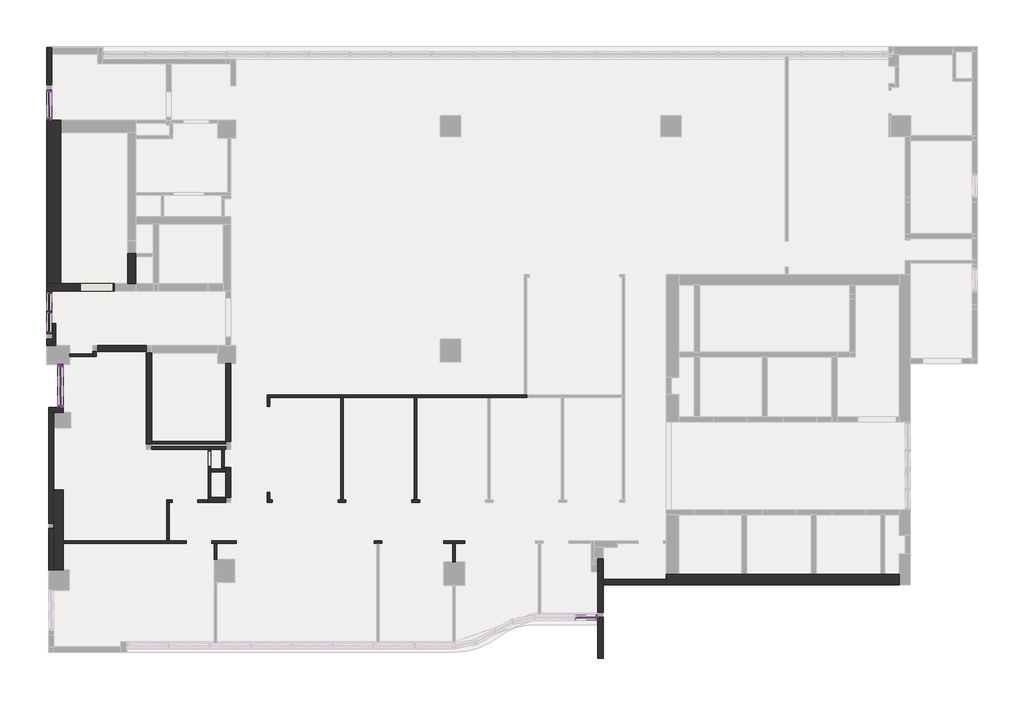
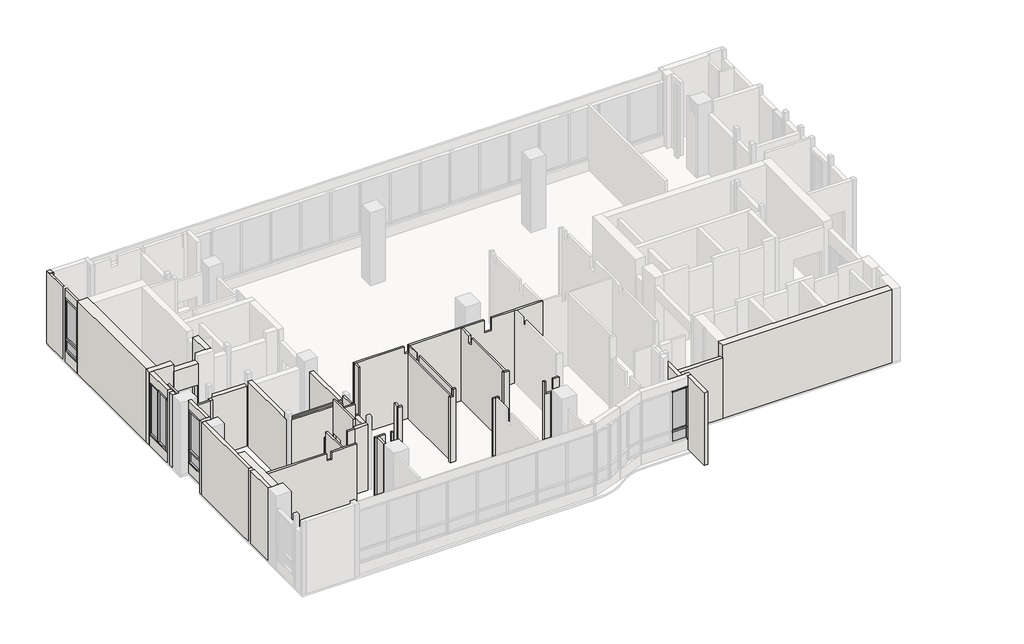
# One storey, part 2 of 5: 48 walls, 27 members, 8 plates.
"""IFC4 building model written with IfcOpenShell, lengths in millimetres."""

from ifc_helpers import new_model, si_unit, frame, origin, place, context, project, spatial, polyline, outline, extrude, faceted_brep, transform, mapped, element, save
from components import member_70_x_200mm_6b650310, member_70_x_200mm_08fd97f2, member_70_x_200mm_85eb935a, member_70_x_200mm_ae6c61ee, member_70_x_200mm_ab4e7ed3, member_70_x_200mm_a98047c5, member_80_x_200mm_c01ebbc2, member_80_x_200mm_af80708f, member_80_x_200mm_e8402a9b, member_80_x_200mm_bcc0553d, member_80_x_200mm_05e543a0, member_80_x_200mm_a242178f, member_80_x_200mm_2f8fc85b, member_80_x_200mm_9974a9cf, plate_a692ac92, plate_ac96ec8a, plate_8b333cfc, plate_b8854779, plate_9922c087, plate_b3ac3ebe, plate_d4818a0d, plate_ae12a68d

model = new_model("IFC4")

# Units and contexts
model_context = context("Model", 3, world=origin())
ifc_project = project(units=[si_unit("LENGTHUNIT", "METRE", prefix="MILLI")], contexts=[model_context])

# Site, building, storey
site = spatial("IfcSite", under=ifc_project)
building = spatial("IfcBuilding", under=site)
storey = spatial("IfcBuildingStorey", under=building, Name="20F(S)", Elevation=-100.0)

# Members
placement = place(None, origin())
member_70_x_200mm_shape = member_70_x_200mm_6b650310(model_context)
element("IfcMember", 1, ObjectType="矩形竖梃 : 70 x 200mm", at=placement, inside=storey, context=model_context, shape_type="MappedRepresentation", body=[
    mapped(member_70_x_200mm_shape, transform((-149.9999991, 6525.0000398, 500.0), x_axis=(0.0, -1.0, 0.0), y_axis=(-1.0, 0.0, 0.0), z_axis=(0.0, 0.0, -1.0))),
])
member_70_x_200mm_2_shape = member_70_x_200mm_08fd97f2(model_context)
element("IfcMember", 2, ObjectType="矩形竖梃 : 70 x 200mm", at=placement, inside=storey, context=model_context, shape_type="MappedRepresentation", body=[
    mapped(member_70_x_200mm_2_shape, transform((-149.9999991, 6525.0000398, 1210.0), x_axis=(0.0, -1.0, 0.0), y_axis=(-1.0, 0.0, 0.0), z_axis=(0.0, 0.0, -1.0))),
])
member_70_x_200mm_3_shape = member_70_x_200mm_85eb935a(model_context)
element("IfcMember", 3, ObjectType="矩形竖梃 : 70 x 200mm", at=placement, inside=storey, context=model_context, shape_type="MappedRepresentation", body=[
    mapped(member_70_x_200mm_3_shape, transform((20680.000002, -1661.00763, 500.0), x_axis=(1.0, 0.0, 0.0), y_axis=(0.0, -1.0, 0.0), z_axis=(0.0, 0.0, -1.0))),
])
element("IfcMember", 4, ObjectType="矩形竖梃 : 70 x 200mm", at=placement, inside=storey, context=model_context, shape_type="MappedRepresentation", body=[
    mapped(member_70_x_200mm_3_shape, transform((-589.9999991, 17639.9923452, 500.0), x_axis=(0.0, -1.0, 0.0), y_axis=(-1.0, 0.0, 0.0), z_axis=(0.0, 0.0, -1.0))),
])
member_70_x_200mm_4_shape = member_70_x_200mm_ae6c61ee(model_context)
element("IfcMember", 5, ObjectType="矩形竖梃 : 70 x 200mm", at=placement, inside=storey, context=model_context, shape_type="MappedRepresentation", body=[
    mapped(member_70_x_200mm_4_shape, transform((20680.000002, -1661.00763, 1210.0), x_axis=(1.0, 0.0, 0.0), y_axis=(0.0, -1.0, 0.0), z_axis=(0.0, 0.0, -1.0))),
])
element("IfcMember", 6, ObjectType="矩形竖梃 : 70 x 200mm", at=placement, inside=storey, context=model_context, shape_type="MappedRepresentation", body=[
    mapped(member_70_x_200mm_4_shape, transform((-589.9999991, 17639.9923452, 1210.0), x_axis=(0.0, -1.0, 0.0), y_axis=(-1.0, 0.0, 0.0), z_axis=(0.0, 0.0, -1.0))),
])
element("IfcMember", 7, ObjectType="矩形竖梃 : 70 x 200mm", at=placement, inside=storey, context=model_context, shape_type="MappedRepresentation", body=[
    mapped(member_70_x_200mm_4_shape, transform((-149.9999991, 8150.0000401, 3500.0), x_axis=(0.0, 1.0, 0.0), y_axis=(-1.0, 0.0, 0.0), z_axis=(0.0, 0.0, 1.0))),
])
element("IfcMember", 8, ObjectType="矩形竖梃 : 70 x 200mm", at=placement, inside=storey, context=model_context, shape_type="MappedRepresentation", body=[
    mapped(member_70_x_200mm_4_shape, transform((-589.9999991, 18799.99237, 3500.0), x_axis=(0.0, 1.0, 0.0), y_axis=(-1.0, 0.0, 0.0), z_axis=(0.0, 0.0, 1.0))),
])
element("IfcMember", 9, ObjectType="矩形竖梃 : 70 x 200mm", at=placement, inside=storey, context=model_context, shape_type="MappedRepresentation", body=[
    mapped(member_70_x_200mm_3_shape, transform((-149.9999991, 8150.0000401, 1210.0), x_axis=(0.0, 1.0, 0.0), y_axis=(-1.0, 0.0, 0.0), z_axis=(0.0, 0.0, 1.0))),
])
element("IfcMember", 10, ObjectType="矩形竖梃 : 70 x 200mm", at=placement, inside=storey, context=model_context, shape_type="MappedRepresentation", body=[
    mapped(member_70_x_200mm_3_shape, transform((-589.9999991, 18799.99237, 1210.0), x_axis=(0.0, 1.0, 0.0), y_axis=(-1.0, 0.0, 0.0), z_axis=(0.0, 0.0, 1.0))),
])
member_70_x_200mm_5_shape = member_70_x_200mm_ab4e7ed3(model_context)
element("IfcMember", 11, ObjectType="矩形竖梃 : 70 x 200mm", at=placement, inside=storey, context=model_context, shape_type="MappedRepresentation", body=[
    mapped(member_70_x_200mm_5_shape, transform((-589.9999991, 10205.0000383, 500.0), x_axis=(0.0, -1.0, 0.0), y_axis=(-1.0, 0.0, 0.0), z_axis=(0.0, 0.0, -1.0))),
])
member_70_x_200mm_6_shape = member_70_x_200mm_a98047c5(model_context)
element("IfcMember", 12, ObjectType="矩形竖梃 : 70 x 200mm", at=placement, inside=storey, context=model_context, shape_type="MappedRepresentation", body=[
    mapped(member_70_x_200mm_6_shape, transform((-589.9999991, 11000.0000384, 3500.0), x_axis=(0.0, 1.0, 0.0), y_axis=(-1.0, 0.0, 0.0), z_axis=(0.0, 0.0, 1.0))),
])
element("IfcMember", 13, ObjectType="矩形竖梃 : 70 x 200mm", at=placement, inside=storey, context=model_context, shape_type="MappedRepresentation", body=[
    mapped(member_70_x_200mm_6_shape, transform((-589.9999991, 9350.0000383, 500.0), x_axis=(0.0, -1.0, 0.0), y_axis=(-1.0, 0.0, 0.0), z_axis=(0.0, 0.0, -1.0))),
])
element("IfcMember", 14, ObjectType="矩形竖梃 : 70 x 200mm", at=placement, inside=storey, context=model_context, shape_type="MappedRepresentation", body=[
    mapped(member_70_x_200mm_3_shape, transform((-149.9999991, 6500.0000361, 500.0), x_axis=(0.0, -1.0, 0.0), y_axis=(-1.0, 0.0, 0.0), z_axis=(0.0, 0.0, -1.0))),
])
element("IfcMember", 15, ObjectType="矩形竖梃 : 70 x 200mm", at=placement, inside=storey, context=model_context, shape_type="MappedRepresentation", body=[
    mapped(member_70_x_200mm_4_shape, transform((-149.9999991, 6500.0000361, 1210.0), x_axis=(0.0, -1.0, 0.0), y_axis=(-1.0, 0.0, 0.0), z_axis=(0.0, 0.0, -1.0))),
])
member_80_x_200mm_shape = member_80_x_200mm_c01ebbc2(model_context)
element("IfcMember", 16, ObjectType="矩形竖梃 : 80 x 200mm", at=placement, inside=storey, context=model_context, shape_type="MappedRepresentation", body=[
    mapped(member_80_x_200mm_shape, transform((-149.9999991, 6560.0000398, 3500.0), x_axis=(0.0, 0.0, 1.0), y_axis=(-1.0, 0.0, 0.0), z_axis=(0.0, -1.0, 0.0))),
])
element("IfcMember", 17, ObjectType="矩形竖梃 : 80 x 200mm", at=placement, inside=storey, context=model_context, shape_type="MappedRepresentation", body=[
    mapped(member_80_x_200mm_shape, transform((-149.9999991, 8080.0000401, 500.0), x_axis=(0.0, 0.0, -1.0), y_axis=(-1.0, 0.0, 0.0), z_axis=(0.0, 1.0, 0.0))),
])
member_80_x_200mm_2_shape = member_80_x_200mm_af80708f(model_context)
element("IfcMember", 18, ObjectType="矩形竖梃 : 80 x 200mm", at=placement, inside=storey, context=model_context, shape_type="MappedRepresentation", body=[
    mapped(member_80_x_200mm_2_shape, transform((-149.9999991, 6560.0000398, 1210.0), x_axis=(0.0, 0.0, 1.0), y_axis=(-1.0, 0.0, 0.0), z_axis=(0.0, -1.0, 0.0))),
])
member_80_x_200mm_3_shape = member_80_x_200mm_e8402a9b(model_context)
element("IfcMember", 19, ObjectType="矩形竖梃 : 80 x 200mm", at=placement, inside=storey, context=model_context, shape_type="MappedRepresentation", body=[
    mapped(member_80_x_200mm_3_shape, transform((20610.000002, -1661.00763, 3500.0), x_axis=(0.0, 0.0, 1.0), y_axis=(0.0, -1.0, 0.0), z_axis=(1.0, 0.0, 0.0))),
])
member_80_x_200mm_4_shape = member_80_x_200mm_bcc0553d(model_context)
element("IfcMember", 20, ObjectType="矩形竖梃 : 80 x 200mm", at=placement, inside=storey, context=model_context, shape_type="MappedRepresentation", body=[
    mapped(member_80_x_200mm_4_shape, transform((20610.000002, -1661.00763, 1210.0), x_axis=(0.0, 0.0, 1.0), y_axis=(0.0, -1.0, 0.0), z_axis=(1.0, 0.0, 0.0))),
])
member_80_x_200mm_5_shape = member_80_x_200mm_05e543a0(model_context)
element("IfcMember", 21, ObjectType="矩形竖梃 : 80 x 200mm", at=placement, inside=storey, context=model_context, shape_type="MappedRepresentation", body=[
    mapped(member_80_x_200mm_5_shape, transform((-589.9999991, 9410.0000381, 3500.0), x_axis=(0.0, 0.0, 1.0), y_axis=(-1.0, 0.0, 0.0), z_axis=(0.0, -1.0, 0.0))),
])
member_80_x_200mm_6_shape = member_80_x_200mm_a242178f(model_context)
element("IfcMember", 22, ObjectType="矩形竖梃 : 80 x 200mm", at=placement, inside=storey, context=model_context, shape_type="MappedRepresentation", body=[
    mapped(member_80_x_200mm_6_shape, transform((-589.9999991, 10930.0000384, 500.0), x_axis=(0.0, 0.0, -1.0), y_axis=(-1.0, 0.0, 0.0), z_axis=(0.0, 1.0, 0.0))),
])
element("IfcMember", 23, ObjectType="矩形竖梃 : 80 x 200mm", at=placement, inside=storey, context=model_context, shape_type="MappedRepresentation", body=[
    mapped(member_80_x_200mm_6_shape, transform((-589.9999991, 10240.0000383, 3500.0), x_axis=(0.0, 0.0, 1.0), y_axis=(-1.0, 0.0, 0.0), z_axis=(0.0, -1.0, 0.0))),
])
element("IfcMember", 24, ObjectType="矩形竖梃 : 80 x 200mm", at=placement, inside=storey, context=model_context, shape_type="MappedRepresentation", body=[
    mapped(member_80_x_200mm_5_shape, transform((-589.9999991, 10170.0000383, 500.0), x_axis=(0.0, 0.0, -1.0), y_axis=(-1.0, 0.0, 0.0), z_axis=(0.0, 1.0, 0.0))),
])
member_80_x_200mm_7_shape = member_80_x_200mm_2f8fc85b(model_context)
element("IfcMember", 25, ObjectType="矩形竖梃 : 80 x 200mm", at=placement, inside=storey, context=model_context, shape_type="MappedRepresentation", body=[
    mapped(member_80_x_200mm_7_shape, transform((-589.9999991, 17709.9923452, 3500.0), x_axis=(0.0, 0.0, 1.0), y_axis=(-1.0, 0.0, 0.0), z_axis=(0.0, -1.0, 0.0))),
])
element("IfcMember", 26, ObjectType="矩形竖梃 : 80 x 200mm", at=placement, inside=storey, context=model_context, shape_type="MappedRepresentation", body=[
    mapped(member_80_x_200mm_7_shape, transform((-589.9999991, 18729.99237, 500.0), x_axis=(0.0, 0.0, -1.0), y_axis=(-1.0, 0.0, 0.0), z_axis=(0.0, 1.0, 0.0))),
])
member_80_x_200mm_8_shape = member_80_x_200mm_9974a9cf(model_context)
element("IfcMember", 27, ObjectType="矩形竖梃 : 80 x 200mm", at=placement, inside=storey, context=model_context, shape_type="MappedRepresentation", body=[
    mapped(member_80_x_200mm_8_shape, transform((-589.9999991, 17709.9923452, 1210.0), x_axis=(0.0, 0.0, 1.0), y_axis=(-1.0, 0.0, 0.0), z_axis=(0.0, -1.0, 0.0))),
])

# Plates
plate_shape = plate_a692ac92(model_context)
element("IfcPlate", 28, ObjectType="系统嵌板 : 玻璃", at=placement, inside=storey, context=model_context, shape_type="MappedRepresentation", body=[
    mapped(plate_shape, transform((-149.9999991, 7320.0000399, 580.0), x_axis=(0.0, -1.0, 0.0), y_axis=(1.0, 0.0, 0.0), z_axis=(0.0, 0.0, 1.0))),
])
plate_2_shape = plate_ac96ec8a(model_context)
element("IfcPlate", 29, ObjectType="系统嵌板 : 玻璃", at=placement, inside=storey, context=model_context, shape_type="MappedRepresentation", body=[
    mapped(plate_2_shape, transform((20218.5302202, -1661.00763, 580.0), x_axis=(1.0, 0.0, 0.0), y_axis=(0.0, 1.0, 0.0), z_axis=(0.0, 0.0, 1.0))),
])
plate_3_shape = plate_8b333cfc(model_context)
element("IfcPlate", 30, ObjectType="系统嵌板 : 玻璃", at=placement, inside=storey, context=model_context, shape_type="MappedRepresentation", body=[
    mapped(plate_3_shape, transform((-149.9999991, 7320.0000399, 1250.0), x_axis=(0.0, -1.0, 0.0), y_axis=(1.0, 0.0, 0.0), z_axis=(0.0, 0.0, 1.0))),
])
plate_4_shape = plate_b8854779(model_context)
element("IfcPlate", 31, ObjectType="系统嵌板 : 玻璃", at=placement, inside=storey, context=model_context, shape_type="MappedRepresentation", body=[
    mapped(plate_4_shape, transform((20218.5302202, -1661.00763, 1250.0), x_axis=(1.0, 0.0, 0.0), y_axis=(0.0, 1.0, 0.0), z_axis=(0.0, 0.0, 1.0))),
])
plate_5_shape = plate_9922c087(model_context)
element("IfcPlate", 32, ObjectType="系统嵌板 : 玻璃", at=placement, inside=storey, context=model_context, shape_type="MappedRepresentation", body=[
    mapped(plate_5_shape, transform((-589.9999991, 10585.0000383, 580.0), x_axis=(0.0, -1.0, 0.0), y_axis=(1.0, 0.0, 0.0), z_axis=(0.0, 0.0, 1.0))),
])
plate_6_shape = plate_b3ac3ebe(model_context)
element("IfcPlate", 33, ObjectType="系统嵌板 : 玻璃", at=placement, inside=storey, context=model_context, shape_type="MappedRepresentation", body=[
    mapped(plate_6_shape, transform((-589.9999991, 9790.0000382, 580.0), x_axis=(0.0, -1.0, 0.0), y_axis=(1.0, 0.0, 0.0), z_axis=(0.0, 0.0, 1.0))),
])
plate_7_shape = plate_d4818a0d(model_context)
element("IfcPlate", 34, ObjectType="系统嵌板 : 玻璃", at=placement, inside=storey, context=model_context, shape_type="MappedRepresentation", body=[
    mapped(plate_7_shape, transform((-589.9999991, 18219.9923576, 580.0), x_axis=(0.0, -1.0, 0.0), y_axis=(1.0, 0.0, 0.0), z_axis=(0.0, 0.0, 1.0))),
])
plate_8_shape = plate_ae12a68d(model_context)
element("IfcPlate", 35, ObjectType="系统嵌板 : 玻璃", at=placement, inside=storey, context=model_context, shape_type="MappedRepresentation", body=[
    mapped(plate_8_shape, transform((-589.9999991, 18219.9923576, 1250.0), x_axis=(0.0, -1.0, 0.0), y_axis=(1.0, 0.0, 0.0), z_axis=(0.0, 0.0, 1.0))),
])

# Walls
element("IfcWall", 36, ObjectType="承重墙-550", at=placement, inside=storey, context=model_context, shape_type="Brep", body=[
    faceted_brep([(-139.9999991, 11300.0000384, -100.0), (-139.9999991, 17139.9923452, -100.0), (-139.9999991, 17639.9923452, -100.0), (-139.9999991, 17639.9923452, 4000.0), (-139.9999991, 17139.9923452, 4000.0), (-139.9999991, 11300.0000384, 4000.0), (-689.9999991, 11300.0000384, -100.0), (-689.9999991, 11300.0000384, 4000.0), (-689.9999991, 17639.9923452, 4000.0), (-689.9999991, 17639.9923452, -100.0), (-489.9999991, 17639.9923452, -100.0), (-600.0, 17639.9923452, 4000.0)], [[[0, 1, 2, 3, 4, 5]], [[6, 7, 8, 9]], [[2, 1, 0, 6, 9, 10]], [[5, 4, 3, 11, 8, 7]], [[3, 2, 10, 9, 8, 11]], [[0, 5, 7, 6]]]),
])
element("IfcWall", 37, ObjectType="承重墙-300", at=placement, inside=storey, context=model_context, shape_type="SweptSolid", body=[
    extrude(outline(polyline([(2460.0000009, 11299.9923707), (2460.0000009, 12449.9994242), (2760.0000009, 12449.9994242), (2760.0000009, 11299.9923707), (2460.0000009, 11299.9923707)])), frame((0.0, 0.0, -100.0), z_axis=(0.0, 0.0, 1.0), x_axis=(1.0, 0.0, 0.0)), (0.0, 0.0, 1.0), 4100.0),
])
element("IfcWall", 38, ObjectType="承重墙-300", at=placement, inside=storey, context=model_context, shape_type="Brep", body=[
    faceted_brep([(610.0000011, 11300.0000384, -100.0), (-139.9999991, 11300.0000384, -100.0), (-689.9999991, 11300.0000384, -100.0), (-689.9999991, 11300.0000384, 4000.0), (-139.9999991, 11300.0000384, 4000.0), (610.0000011, 11300.0000384, 4000.0), (610.0000011, 11000.0000384, -100.0), (610.0000011, 11000.0000384, 4000.0), (-489.9999991, 11000.0000384, 4000.0), (-689.9999991, 11000.0000384, 4000.0), (-689.9999991, 11000.0000384, -100.0), (-489.9999991, 11000.0000384, -100.0)], [[[0, 1, 2, 3, 4, 5]], [[6, 7, 8, 9, 10, 11]], [[2, 1, 0, 6, 11, 10]], [[5, 4, 3, 9, 8, 7]], [[0, 5, 7, 6]], [[3, 2, 10, 9]]]),
])
element("IfcWall", 39, ObjectType="非承重墙-200", at=placement, inside=storey, context=model_context, shape_type="Brep", body=[
    faceted_brep([(-49.9999991, 6500.0000361, -100.0), (-249.9999991, 6500.0000361, -100.0), (-609.9999991, 6500.0000361, -100.0), (-609.9999991, 6500.0000361, 4000.0), (-249.9999991, 6500.0000361, 4000.0), (-89.9999991, 6500.0000361, 4000.0), (-89.9999991, 6500.0000361, 3500.0), (-49.9999991, 6500.0000361, 3500.0), (-609.9999991, 6300.0000361, -100.0), (-409.9999991, 6300.0000361, -100.0), (-49.9999991, 6300.0000361, -100.0), (-49.9999991, 6300.0000361, 3500.0), (-89.9999991, 6300.0000361, 3500.0), (-89.9999991, 6300.0000361, 4000.0), (-409.9999991, 6300.0000361, 4000.0), (-609.9999991, 6300.0000361, 4000.0)], [[[0, 1, 2, 3, 4, 5, 6, 7]], [[8, 9, 10, 11, 12, 13, 14, 15]], [[2, 1, 0, 10, 9, 8]], [[3, 15, 14, 13, 5, 4]], [[10, 0, 7, 11]], [[3, 2, 8, 15]], [[6, 12, 11, 7]], [[12, 6, 5, 13]]]),
])
element("IfcWall", 40, ObjectType="非承重墙-200", at=placement, inside=storey, context=model_context, shape_type="SweptSolid", body=[
    extrude(outline(polyline([(-609.9999991, 2000.0000361), (-609.9999991, 6300.0000361), (-409.9999991, 6300.0000361), (-409.9999991, 2000.0000361), (-609.9999991, 2000.0000361)])), frame((0.0, 0.0, -100.0), z_axis=(0.0, 0.0, 1.0), x_axis=(1.0, 0.0, 0.0)), (0.0, 0.0, 1.0), 4100.0),
])
element("IfcWall", 41, ObjectType="非承重墙-200", at=placement, inside=storey, context=model_context, shape_type="SweptSolid", body=[
    extrude(outline(polyline([(-609.9999991, 200.0000017), (-609.9999991, 1799.9923314), (-409.9999991, 1799.9923314), (-409.9999991, 200.0000017), (-609.9999991, 200.0000017)])), frame((0.0, 0.0, -100.0), z_axis=(0.0, 0.0, 1.0), x_axis=(1.0, 0.0, 0.0)), (0.0, 0.0, 1.0), 4100.0),
])
element("IfcWall", 42, ObjectType="非承重墙-200", at=placement, inside=storey, context=model_context, shape_type="SweptSolid", body=[
    extrude(outline(polyline([(-249.9999991, 6500.0000361), (-249.9999991, 8150.0000401), (-49.9999991, 8150.0000401), (-49.9999991, 6500.0000361), (-249.9999991, 6500.0000361)])), frame((0.0, 0.0, -100.0), z_axis=(0.0, 0.0, 1.0), x_axis=(1.0, 0.0, 0.0)), (0.0, 0.0, 1.0), 600.0),
    extrude(outline(polyline([(-249.9999991, 6500.0000361), (-249.9999991, 8150.0000401), (-89.9999991, 8150.0000401), (-89.9999991, 6500.0000361), (-249.9999991, 6500.0000361)])), frame((0.0, 0.0, 3500.0), z_axis=(0.0, 0.0, 1.0), x_axis=(1.0, 0.0, 0.0)), (0.0, 0.0, 1.0), 500.0),
])
element("IfcWall", 43, ObjectType="承重墙-400", at=placement, inside=storey, context=model_context, shape_type="Brep", body=[
    faceted_brep([(32350.0000031, 19.9923316, -100.0), (31799.9999987, 19.9923316, -100.0), (31649.9999987, 19.9923316, -100.0), (29149.9999987, 19.9923316, -100.0), (28949.9999987, 19.9923316, -100.0), (26449.9999987, 19.9923316, -100.0), (26249.9999987, 19.9923316, -100.0), (23820.0000001, 19.9923316, -100.0), (23320.0000001, 19.9923316, -100.0), (23320.0000001, 19.9923316, 4000.0), (23820.0000001, 19.9923316, 4000.0), (26249.9999987, 19.9923316, 4000.0), (26449.9999987, 19.9923316, 4000.0), (28949.9999987, 19.9923316, 4000.0), (29149.9999987, 19.9923316, 4000.0), (32350.0000031, 19.9923316, 4000.0), (32350.0000031, -380.0076684, -100.0), (32350.0000031, -380.0076684, 4000.0), (23320.0000001, -380.0076684, 4000.0), (23320.0000001, -380.0076684, -100.0), (23320.0000001, -180.0076684, -100.0)], [[[0, 1, 2, 3, 4, 5, 6, 7, 8, 9, 10, 11, 12, 13, 14, 15]], [[16, 17, 18, 19]], [[8, 7, 6, 5, 4, 3, 2, 1, 0, 16, 19, 20]], [[15, 14, 13, 12, 11, 10, 9, 18, 17]], [[0, 15, 17, 16]], [[8, 20, 19, 18, 9]]]),
])
element("IfcWall", 44, ObjectType="承重墙-360", at=placement, inside=storey, context=model_context, shape_type="SweptSolid", body=[
    extrude(outline(polyline([(-409.9995919, 200.0000017), (-409.9995919, 3299.99237), (-49.9995919, 3299.99237), (-49.9995919, 200.0000017), (-409.9995919, 200.0000017)])), frame((0.0, 0.0, -100.0), z_axis=(0.0, 0.0, 1.0), x_axis=(1.0, 0.0, 0.0)), (0.0, 0.0, 1.0), 4100.0),
])
element("IfcWall", 45, ObjectType="非承重墙-200", at=placement, inside=storey, context=model_context, shape_type="SweptSolid", body=[
    extrude(outline(polyline([(-689.9999991, 8900.0000401), (-689.9999991, 9149.9958426), (-489.9999991, 9149.9958426), (-489.9999991, 8900.0000401), (-689.9999991, 8900.0000401)])), frame((0.0, 0.0, -100.0), z_axis=(0.0, 0.0, 1.0), x_axis=(1.0, 0.0, 0.0)), (0.0, 0.0, 1.0), 4100.0),
])
element("IfcWall", 46, ObjectType="非承重墙-200", at=placement, inside=storey, context=model_context, shape_type="SweptSolid", body=[
    extrude(outline(polyline([(-689.9999991, 9350.0000383), (-689.9999991, 11000.0000384), (-489.9999991, 11000.0000384), (-489.9999991, 9350.0000383), (-689.9999991, 9350.0000383)])), frame((0.0, 0.0, -100.0), z_axis=(0.0, 0.0, 1.0), x_axis=(1.0, 0.0, 0.0)), (0.0, 0.0, 1.0), 600.0),
    extrude(outline(polyline([(-689.9999991, 9350.0000383), (-689.9999991, 11000.0000384), (-489.9999991, 11000.0000384), (-489.9999991, 9350.0000383), (-689.9999991, 9350.0000383)])), frame((0.0, 0.0, 3500.0), z_axis=(0.0, 0.0, 1.0), x_axis=(1.0, 0.0, 0.0)), (0.0, 0.0, 1.0), 500.0),
])
element("IfcWall", 47, ObjectType="非承重墙-200", at=placement, inside=storey, context=model_context, shape_type="Brep", body=[
    faceted_brep([(3180.000001, 8600.0000012, -100.0), (3180.000001, 5069.99237, -100.0), (3180.000001, 5069.99237, 3600.0), (3180.000001, 8600.0000012, 3600.0), (3380.000001, 8600.0000012, -100.0), (3380.000001, 8600.0000012, 3600.0), (3380.000001, 5169.99237, 3600.0), (3380.000001, 5069.99237, 3600.0), (3380.000001, 5069.99237, -100.0), (3380.000001, 5169.99237, -100.0)], [[[0, 1, 2, 3]], [[4, 5, 6, 7, 8, 9]], [[1, 0, 4, 9, 8]], [[3, 2, 7, 6, 5]], [[0, 3, 5, 4]], [[2, 1, 8, 7]]]),
])
element("IfcWall", 48, ObjectType="非承重墙-200", at=placement, inside=storey, context=model_context, shape_type="Brep", body=[
    faceted_brep([(6250.0000009, 2999.8899531, -100.0), (5670.0000009, 2999.8899531, -100.0), (5570.0000009, 2999.8899531, -100.0), (5570.0000009, 2999.8899531, 3600.0), (5670.0000009, 2999.8899531, 3600.0), (6250.0000009, 2999.8899531, 3600.0), (6250.0000009, 2799.8899531, -100.0), (6250.0000009, 2799.8899531, 3600.0), (5570.0000009, 2799.8899531, 3600.0), (5570.0000009, 2799.8899531, -100.0), (5570.0000009, 2900.0000384, 3600.0)], [[[0, 1, 2, 3, 4, 5]], [[6, 7, 8, 9]], [[2, 1, 0, 6, 9]], [[3, 2, 9, 8, 10]], [[5, 4, 3, 10, 8, 7]], [[0, 5, 7, 6]]]),
])
element("IfcWall", 49, ObjectType="非承重墙-200", at=placement, inside=storey, context=model_context, shape_type="Brep", body=[
    faceted_brep([(6250.0000005, 4069.9923625, -100.0), (6250.0000005, 4000.0000413, -100.0), (6250.0000005, 2999.99237, -100.0), (6250.0000005, 2999.99237, 3300.0), (6250.0000005, 4069.9923625, 3300.0), (6450.0000005, 4069.9923625, -100.0), (6450.0000005, 4069.9923625, 3300.0), (6450.0000005, 2999.99237, 3300.0), (6450.0000005, 2999.99237, -100.0)], [[[0, 1, 2, 3, 4]], [[5, 6, 7, 8]], [[2, 1, 0, 5, 8]], [[3, 2, 8, 7]], [[4, 3, 7, 6]], [[0, 4, 6, 5]]]),
])
element("IfcWall", 50, ObjectType="非承重墙-200", at=placement, inside=storey, context=model_context, shape_type="SweptSolid", body=[
    extrude(outline(polyline([(6450.0000006, 8200.0110062), (6450.0000006, 5169.99237), (6250.0000006, 5169.99237), (6250.0000006, 8200.0110062), (6450.0000006, 8200.0110062)])), frame((0.0, 0.0, -100.0), z_axis=(0.0, 0.0, 1.0), x_axis=(1.0, 0.0, 0.0)), (0.0, 0.0, 1.0), 3400.0),
])
element("IfcWall", 51, ObjectType="非承重墙-200", at=placement, inside=storey, context=model_context, shape_type="Brep", body=[
    faceted_brep([(-689.999999, 20449.9885166, -100.0), (-689.999999, 18999.99237, -100.0), (-689.999999, 18999.99237, 4000.0), (-689.999999, 20449.9885166, 4000.0), (-489.999999, 18999.99237, -100.0), (-489.999999, 20199.9885166, -100.0), (-489.999999, 20449.9885166, -100.0), (-489.999999, 20449.9885166, 4000.0), (-489.999999, 20199.9885166, 4000.0), (-489.999999, 20189.9923697, 4000.0), (-489.999999, 20189.9923697, 3300.0), (-489.999999, 18999.99237, 3300.0), (-600.0, 18999.99237, 3300.0), (-600.0, 18999.99237, 4000.0), (-600.0, 20189.9923697, 4000.0), (-600.0, 20189.9923697, 3300.0)], [[[0, 1, 2, 3]], [[4, 5, 6, 7, 8, 9, 10, 11]], [[1, 0, 6, 5, 4]], [[2, 1, 4, 11, 12, 13]], [[3, 2, 13, 14, 9, 8, 7]], [[0, 3, 7, 6]], [[10, 15, 12, 11]], [[12, 15, 14, 13]], [[15, 10, 9, 14]]]),
])
element("IfcWall", 52, ObjectType="非承重墙-200", at=placement, inside=storey, context=model_context, shape_type="SweptSolid", body=[
    extrude(outline(polyline([(-689.9999991, 17639.9923452), (-689.9999991, 18799.99237), (-489.9999991, 18799.99237), (-489.9999991, 17639.9923452), (-689.9999991, 17639.9923452)])), frame((0.0, 0.0, -100.0), z_axis=(0.0, 0.0, 1.0), x_axis=(1.0, 0.0, 0.0)), (0.0, 0.0, 1.0), 600.0),
    extrude(outline(polyline([(-689.9999991, 17639.9923452), (-689.9999991, 18799.99237), (-600.0, 18799.99237), (-600.0, 17639.9923452), (-689.9999991, 17639.9923452)])), frame((0.0, 0.0, 3500.0), z_axis=(0.0, 0.0, 1.0), x_axis=(1.0, 0.0, 0.0)), (0.0, 0.0, 1.0), 500.0),
])
element("IfcWall", 53, ObjectType="非承重墙-100", at=placement, inside=storey, context=model_context, shape_type="SweptSolid", body=[
    extrude(outline(polyline([(-339.9999991, 9750.0001013), (-339.9999991, 8900.0000401), (-439.9999991, 8900.0000401), (-439.9999991, 9750.0001013), (-339.9999991, 9750.0001013)])), frame((0.0, 0.0, -100.0), z_axis=(0.0, 0.0, 1.0), x_axis=(1.0, 0.0, 0.0)), (0.0, 0.0, 1.0), 4100.0),
])
element("IfcWall", 54, ObjectType="非承重墙-100", at=placement, inside=storey, context=model_context, shape_type="SweptSolid", body=[
    extrude(outline(polyline([(1100.0000002, 8469.99237), (210.0000009, 8469.99237), (210.0000009, 8569.99237), (1100.0000002, 8569.99237), (1100.0000002, 8469.99237)])), frame((0.0, 0.0, -100.0), z_axis=(0.0, 0.0, 1.0), x_axis=(1.0, 0.0, 0.0)), (0.0, 0.0, 1.0), 3400.0),
])
element("IfcWall", 55, ObjectType="非承重墙-130", at=placement, inside=storey, context=model_context, shape_type="Brep", body=[
    faceted_brep([(1230.0000002, 8469.99237, -100.0), (1230.0000002, 8670.0000012, -100.0), (1230.0000002, 8670.0000012, 3300.0), (1230.0000002, 8469.99237, 3300.0), (1100.0000002, 8469.99237, -100.0), (1100.0000002, 8469.99237, 3300.0), (1100.0000002, 8569.99237, 3300.0), (1100.0000002, 8670.0000012, 3300.0), (1100.0000002, 8670.0000012, -100.0), (1100.0000002, 8569.99237, -100.0)], [[[0, 1, 2, 3]], [[4, 5, 6, 7, 8, 9]], [[1, 0, 4, 9, 8]], [[2, 1, 8, 7]], [[3, 2, 7, 6, 5]], [[0, 3, 5, 4]]]),
])
element("IfcWall", 56, ObjectType="非承重墙-230", at=placement, inside=storey, context=model_context, shape_type="SweptSolid", body=[
    extrude(outline(polyline([(1300.000001, 8900.0076696), (3180.000001, 8900.0076696), (3180.000001, 8670.0076696), (1300.000001, 8670.0076696), (1300.000001, 8900.0076696)])), frame((0.0, 0.0, -100.0), z_axis=(0.0, 0.0, 1.0), x_axis=(1.0, 0.0, 0.0)), (0.0, 0.0, 1.0), 3400.0),
])
element("IfcWall", 57, ObjectType="非承重墙-300", at=placement, inside=storey, context=model_context, shape_type="SweptSolid", body=[
    extrude(outline(polyline([(-100.0, 610.0000011), (-100.0, 1930.0000011), (3600.0, 1930.0000011), (3600.0, 610.0000011), (2400.0, 610.0000011), (2400.0, 1894.7734133), (0.0, 1894.7734133), (0.0, 610.0000011), (-100.0, 610.0000011)])), frame((0.0, 10999.9923707, 0.0), z_axis=(0.0, 1.0, 0.0), x_axis=(0.0, 0.0, 1.0)), (0.0, 0.0, 1.0), 300.0),
])
element("IfcWall", 58, ObjectType="非承重墙-200", at=placement, inside=storey, context=model_context, shape_type="SweptSolid", body=[
    extrude(outline(polyline([(20880.000002, -180.0076684), (23320.0000001, -180.0076684), (23320.0000001, -380.0076684), (20880.000002, -380.0076684), (20880.000002, -180.0076684)])), frame((0.0, 0.0, -100.0), z_axis=(0.0, 0.0, 1.0), x_axis=(1.0, 0.0, 0.0)), (0.0, 0.0, 1.0), 3400.0),
])
element("IfcWall", 59, ObjectType="非承重墙-200", at=placement, inside=storey, context=model_context, shape_type="Brep", body=[
    faceted_brep([(20680.000002, 619.9847014, -100.0), (20680.000002, -1453.0229285, -100.0), (20680.000002, -1453.0229285, 3500.0), (20680.000002, 619.9847014, 3500.0), (20880.000002, 619.9847014, -100.0), (20880.000002, 619.9847014, 3500.0), (20880.000002, -1453.0229285, 3500.0), (20880.000002, -1453.0229285, -100.0), (20880.000002, -380.0076684, -100.0), (20880.000002, -180.0076684, -100.0)], [[[0, 1, 2, 3]], [[4, 5, 6, 7, 8, 9]], [[1, 0, 4, 9, 8, 7]], [[2, 1, 7, 6]], [[3, 2, 6, 5]], [[0, 3, 5, 4]]]),
])
element("IfcWall", 60, ObjectType="非承重墙-100", at=placement, inside=storey, context=model_context, shape_type="Brep", body=[
    faceted_brep([(3380.000001, 4869.99237, -100.0), (5570.0000009, 4869.99237, -100.0), (5670.0000009, 4869.99237, -100.0), (6099.9999937, 4869.99237, -100.0), (6199.9999937, 4869.99237, -100.0), (6250.0000006, 4869.99237, -100.0), (6250.0000006, 4869.99237, 3600.0), (3380.000001, 4869.99237, 3600.0), (3380.000001, 4969.99237, -100.0), (3380.000001, 4969.99237, 3600.0), (6250.0000006, 4969.99237, 3600.0), (6250.0000006, 4969.99237, -100.0)], [[[0, 1, 2, 3, 4, 5, 6, 7]], [[8, 9, 10, 11]], [[5, 4, 3, 2, 1, 0, 8, 11]], [[6, 5, 11, 10]], [[7, 6, 10, 9]], [[0, 7, 9, 8]]]),
])
element("IfcWall", 61, ObjectType="非承重墙-100", at=placement, inside=storey, context=model_context, shape_type="SweptSolid", body=[
    extrude(outline(polyline([(3380.000001, 5169.99237), (6250.0000006, 5169.99237), (6250.0000006, 5069.99237), (3380.000001, 5069.99237), (3380.000001, 5169.99237)])), frame((0.0, 0.0, -100.0), z_axis=(0.0, 0.0, 1.0), x_axis=(1.0, 0.0, 0.0)), (0.0, 0.0, 1.0), 3700.0),
])
element("IfcWall", 62, ObjectType="非承重墙-100", at=placement, inside=storey, context=model_context, shape_type="Brep", body=[
    faceted_brep([(5570.0000009, 4869.99237, -100.0), (5570.0000009, 2999.8899531, -100.0), (5570.0000009, 2999.8899531, 3600.0), (5570.0000009, 3000.1101238, 3600.0), (5570.0000009, 3000.1101238, 4000.0), (5570.0000009, 4869.99237, 4000.0), (5570.0000009, 4800.0000398, 0.0), (5570.0000009, 4800.0000398, 2100.0), (5570.0000009, 4200.0000398, 2100.0), (5570.0000009, 4200.0000398, 0.0), (5670.0000009, 2999.8899531, -100.0), (5670.0000009, 4000.0000413, -100.0), (5670.0000009, 4100.0000413, -100.0), (5670.0000009, 4869.99237, -100.0), (5670.0000009, 4869.99237, 4000.0), (5670.0000009, 4100.0000413, 4000.0), (5670.0000009, 4000.0000413, 4000.0), (5670.0000009, 3000.1101238, 4000.0), (5670.0000009, 3000.1101238, 3600.0), (5670.0000009, 2999.8899531, 3600.0), (5670.0000009, 4800.0000398, 2100.0), (5670.0000009, 4800.0000398, 0.0), (5670.0000009, 4200.0000398, 0.0), (5670.0000009, 4200.0000398, 2100.0)], [[[0, 1, 2, 3, 4, 5], [6, 7, 8, 9]], [[10, 11, 12, 13, 14, 15, 16, 17, 18, 19], [20, 21, 22, 23]], [[1, 0, 13, 12, 11, 10]], [[14, 5, 4, 17, 16, 15]], [[0, 5, 14, 13]], [[6, 21, 20, 7]], [[7, 20, 23, 8]], [[22, 9, 8, 23]], [[21, 6, 9, 22]], [[1, 10, 19, 2]], [[18, 3, 2, 19]], [[3, 18, 17, 4]]]),
])
element("IfcWall", 63, ObjectType="非承重墙-100", at=placement, inside=storey, context=model_context, shape_type="Brep", body=[
    faceted_brep([(6250.0000005, 4100.0000413, -100.0), (5670.0000009, 4100.0000413, -100.0), (5670.0000009, 4100.0000413, 4000.0), (6250.0000005, 4100.0000413, 4000.0), (6250.0000005, 4000.0000413, -100.0), (6250.0000005, 4000.0000413, 4000.0), (5670.0000009, 4000.0000413, 4000.0), (5670.0000009, 4000.0000413, -100.0), (6250.0000005, 4069.9923625, -100.0)], [[[0, 1, 2, 3]], [[4, 5, 6, 7]], [[1, 0, 8, 4, 7]], [[3, 2, 6, 5]], [[0, 3, 5, 4, 8]], [[2, 1, 7, 6]]]),
])
element("IfcWall", 64, ObjectType="非承重墙-100", at=placement, inside=storey, context=model_context, shape_type="Brep", body=[
    faceted_brep([(6099.9999937, 4869.99237, -100.0), (6099.9999937, 4169.9923625, -100.0), (6099.9999937, 4169.9923625, 3300.0), (6099.9999937, 4169.9923625, 4000.0), (6099.9999937, 4869.99237, 4000.0), (6199.9999937, 4869.99237, -100.0), (6199.9999937, 4869.99237, 4000.0), (6199.9999937, 4169.9923625, 4000.0), (6199.9999937, 4169.9923625, -100.0)], [[[0, 1, 2, 3, 4]], [[5, 6, 7, 8]], [[1, 0, 5, 8]], [[4, 3, 7, 6]], [[0, 4, 6, 5]], [[3, 2, 1, 8, 7]]]),
])
element("IfcWall", 65, ObjectType="非承重墙-100", at=placement, inside=storey, context=model_context, shape_type="Brep", body=[
    faceted_brep([(6099.9999937, 4069.9923625, -100.0), (6250.0000005, 4069.9923625, -100.0), (6450.0000005, 4069.9923625, -100.0), (6450.0000005, 4069.9923625, 3300.0), (6250.0000005, 4069.9923625, 3300.0), (6099.9999937, 4069.9923625, 3300.0), (6099.9999937, 4169.9923625, -100.0), (6099.9999937, 4169.9923625, 3300.0), (6450.0000005, 4169.9923625, 3300.0), (6450.0000005, 4169.9923625, -100.0), (6199.9999937, 4169.9923625, -100.0)], [[[0, 1, 2, 3, 4, 5]], [[6, 7, 8, 9, 10]], [[2, 1, 0, 6, 10, 9]], [[5, 4, 3, 8, 7]], [[0, 5, 7, 6]], [[3, 2, 9, 8]]]),
])
element("IfcWall", 66, ObjectType="非承重墙-200", at=placement, inside=storey, context=model_context, shape_type="SweptSolid", body=[
    extrude(outline(polyline([(20680.000002, -3231.5191131), (20680.000002, -1653.0229285), (20880.000002, -1653.0229285), (20880.000002, -3231.5191131), (20680.000002, -3231.5191131)])), frame((0.0, 0.0, -100.0), z_axis=(0.0, 0.0, 1.0), x_axis=(1.0, 0.0, 0.0)), (0.0, 0.0, 1.0), 4100.0),
])
element("IfcWall", 67, ObjectType="轻钢龙骨-100", at=placement, inside=storey, context=model_context, shape_type="Brep", body=[
    faceted_brep([(7865.0000007, 6880.0056251, -100.0), (7965.0000007, 6880.0056251, -100.0), (10715.0000007, 6880.0056251, -100.0), (10815.0000007, 6880.0056251, -100.0), (13565.0000007, 6880.0056251, -100.0), (13665.0000007, 6880.0056251, -100.0), (16415.0000007, 6880.0056251, -100.0), (16515.0000007, 6880.0056251, -100.0), (17920.0000001, 6880.0056251, -100.0), (17920.0000001, 6880.0056251, 4000.0), (16515.0000007, 6880.0056251, 4000.0), (16415.0000007, 6880.0056251, 4000.0), (15200.000833, 6880.0056251, 4000.0), (15200.000833, 6880.0056251, 3300.0), (14800.000833, 6880.0056251, 3300.0), (14800.000833, 6880.0056251, 4000.0), (13665.0000007, 6880.0056251, 4000.0), (13565.0000007, 6880.0056251, 4000.0), (10815.0000007, 6880.0056251, 4000.0), (10775.000833, 6880.0056251, 4000.0), (10775.000833, 6880.0056251, 3600.0), (10715.0000007, 6880.0056251, 3600.0), (10525.000833, 6880.0056251, 3600.0), (10525.000833, 6880.0056251, 4000.0), (7965.0000007, 6880.0056251, 4000.0), (7865.0000007, 6880.0056251, 4000.0), (17920.0000001, 6980.0056251, -100.0), (17820.0000001, 6980.0056251, -100.0), (7865.0000007, 6980.0056251, -100.0), (7865.0000007, 6980.0056251, 4000.0), (10525.000833, 6980.0056251, 4000.0), (10525.000833, 6980.0056251, 3600.0), (10775.000833, 6980.0056251, 3600.0), (10775.000833, 6980.0056251, 4000.0), (14800.000833, 6980.0056251, 4000.0), (14800.000833, 6980.0056251, 3300.0), (15200.000833, 6980.0056251, 3300.0), (15200.000833, 6980.0056251, 4000.0), (17820.0000001, 6980.0056251, 4000.0), (17920.0000001, 6980.0056251, 4000.0)], [[[0, 1, 2, 3, 4, 5, 6, 7, 8, 9, 10, 11, 12, 13, 14, 15, 16, 17, 18, 19, 20, 21, 22, 23, 24, 25]], [[26, 27, 28, 29, 30, 31, 32, 33, 34, 35, 36, 37, 38, 39]], [[8, 7, 6, 5, 4, 3, 2, 1, 0, 28, 27, 26]], [[29, 25, 24, 23, 30]], [[9, 39, 38, 37, 12, 11, 10]], [[15, 34, 33, 19, 18, 17, 16]], [[0, 25, 29, 28]], [[9, 8, 26, 39]], [[14, 35, 34, 15]], [[35, 14, 13, 36]], [[36, 13, 12, 37]], [[22, 31, 30, 23]], [[31, 22, 21, 20, 32]], [[32, 20, 19, 33]]]),
])
element("IfcWall", 68, ObjectType="轻钢龙骨-100", at=placement, inside=storey, context=model_context, shape_type="SweptSolid", body=[
    extrude(outline(polyline([(7865.0000007, 6529.9923716), (7865.0000007, 6880.0056251), (7965.0000007, 6880.0056251), (7965.0000007, 6529.9923716), (7865.0000007, 6529.9923716)])), frame((0.0, 0.0, -100.0), z_axis=(0.0, 0.0, 1.0), x_axis=(1.0, 0.0, 0.0)), (0.0, 0.0, 1.0), 4100.0),
])
element("IfcWall", 69, ObjectType="轻钢龙骨-100", at=placement, inside=storey, context=model_context, shape_type="Brep", body=[
    faceted_brep([(10715.0000007, 6880.0056251, -100.0), (10715.0000007, 2900.0000384, -100.0), (10715.0000007, 2900.0000384, 3600.0), (10715.0000007, 6880.0056251, 3600.0), (10815.0000007, 2900.0000384, -100.0), (10815.0000007, 6880.0056251, -100.0), (10815.0000007, 6880.0056251, 4000.0), (10815.0000007, 6169.9770708, 4000.0), (10815.0000007, 6169.9770708, 3600.0), (10815.0000007, 5919.9770708, 3600.0), (10815.0000007, 5919.9770708, 4000.0), (10815.0000007, 2900.0000384, 4000.0), (10775.000833, 5919.9770708, 4000.0), (10775.000833, 2900.0000384, 4000.0), (10775.000833, 6880.0056251, 4000.0), (10775.000833, 6169.9770708, 4000.0), (10775.000833, 6880.0056251, 3600.0), (10775.000833, 2900.0000384, 3600.0), (10775.000833, 5919.9770708, 3600.0), (10775.000833, 6169.9770708, 3600.0)], [[[0, 1, 2, 3]], [[4, 5, 6, 7, 8, 9, 10, 11]], [[1, 0, 5, 4]], [[11, 10, 12, 13]], [[7, 6, 14, 15]], [[6, 5, 0, 3, 16, 14]], [[1, 4, 11, 13, 17, 2]], [[10, 9, 18, 12]], [[2, 17, 18, 9, 8, 19, 16, 3]], [[8, 7, 15, 19]], [[16, 19, 15, 14]], [[18, 17, 13, 12]]]),
])
element("IfcWall", 70, ObjectType="轻钢龙骨-100", at=placement, inside=storey, context=model_context, shape_type="SweptSolid", body=[
    extrude(outline(polyline([(6880.0056251, -100.0), (2900.0000384, -100.0), (2900.0000384, 4000.0), (5919.9770708, 4000.0), (5919.9770708, 3600.0), (6169.9770708, 3600.0), (6169.9770708, 4000.0), (6880.0056251, 4000.0), (6880.0056251, -100.0)])), frame((13565.0000007, 0.0, 0.0), z_axis=(1.0, 0.0, 0.0), x_axis=(0.0, 1.0, 0.0)), (0.0, 0.0, 1.0), 100.0),
])
element("IfcWall", 71, ObjectType="轻钢龙骨-100", at=placement, inside=storey, context=model_context, shape_type="Brep", body=[
    faceted_brep([(14710.0015265, 1209.9923683, -100.0), (15060.0015272, 1209.9923683, -100.0), (15160.0015272, 1209.9923683, -100.0), (15510.0015279, 1209.9923683, -100.0), (15510.0015279, 1209.9923683, 4000.0), (15200.000833, 1209.9923683, 4000.0), (15200.000833, 1209.9923683, 3300.0), (15160.0015272, 1209.9923683, 3300.0), (15060.0015272, 1209.9923683, 3300.0), (14800.000833, 1209.9923683, 3300.0), (14800.000833, 1209.9923683, 4000.0), (14710.0015265, 1209.9923683, 4000.0), (15510.0015279, 1309.9923683, -100.0), (14710.0015265, 1309.9923683, -100.0), (14710.0015265, 1309.9923683, 4000.0), (14800.000833, 1309.9923683, 4000.0), (14800.000833, 1309.9923683, 3300.0), (15200.000833, 1309.9923683, 3300.0), (15200.000833, 1309.9923683, 4000.0), (15510.0015279, 1309.9923683, 4000.0)], [[[0, 1, 2, 3, 4, 5, 6, 7, 8, 9, 10, 11]], [[12, 13, 14, 15, 16, 17, 18, 19]], [[3, 2, 1, 0, 13, 12]], [[4, 3, 12, 19]], [[4, 19, 18, 5]], [[14, 11, 10, 15]], [[0, 11, 14, 13]], [[9, 16, 15, 10]], [[16, 9, 8, 7, 6, 17]], [[17, 6, 5, 18]]]),
])
element("IfcWall", 72, ObjectType="轻钢龙骨-100", at=placement, inside=storey, context=model_context, shape_type="SweptSolid", body=[
    extrude(outline(polyline([(15060.0015272, 500.0000016), (15060.0015272, 1209.9923683), (15160.0015272, 1209.9923683), (15160.0015272, 500.0000016), (15060.0015272, 500.0000016)])), frame((0.0, 0.0, -100.0), z_axis=(0.0, 0.0, 1.0), x_axis=(1.0, 0.0, 0.0)), (0.0, 0.0, 1.0), 3400.0),
])
element("IfcWall", 73, ObjectType="轻钢龙骨-100", at=placement, inside=storey, context=model_context, shape_type="Brep", body=[
    faceted_brep([(12010.0015272, 1209.9923684, -100.0), (12110.0015272, 1209.9923684, -100.0), (12210.0015272, 1209.9923684, -100.0), (12310.0015272, 1209.9923684, -100.0), (12310.0015272, 1209.9923684, 4000.0), (12210.0015272, 1209.9923684, 4000.0), (12110.0015272, 1209.9923684, 4000.0), (12010.0015272, 1209.9923684, 4000.0), (12010.0015272, 1309.9923684, -100.0), (12010.0015272, 1309.9923684, 4000.0), (12310.0015272, 1309.9923684, 4000.0), (12310.0015272, 1309.9923684, -100.0)], [[[0, 1, 2, 3, 4, 5, 6, 7]], [[8, 9, 10, 11]], [[3, 2, 1, 0, 8, 11]], [[4, 3, 11, 10]], [[7, 6, 5, 4, 10, 9]], [[0, 7, 9, 8]]]),
])
element("IfcWall", 74, ObjectType="轻钢龙骨-100", at=placement, inside=storey, context=model_context, shape_type="SweptSolid", body=[
    extrude(outline(polyline([(5810.0000006, 600.0000384), (5810.0000006, 1209.9923683), (5910.0000006, 1209.9923683), (5910.0000006, 600.0000384), (5810.0000006, 600.0000384)])), frame((0.0, 0.0, -100.0), z_axis=(0.0, 0.0, 1.0), x_axis=(1.0, 0.0, 0.0)), (0.0, 0.0, 1.0), 4100.0),
])
element("IfcWall", 75, ObjectType="轻钢龙骨-100", at=placement, inside=storey, context=model_context, shape_type="Brep", body=[
    faceted_brep([(5710.0000008, 1209.9923683, -100.0), (5810.0000006, 1209.9923683, -100.0), (5910.0000006, 1209.9923683, -100.0), (6660.0000014, 1209.9923683, -100.0), (6660.0000014, 1209.9923683, 4000.0), (6599.9993078, 1209.9923683, 4000.0), (6599.9993078, 1209.9923683, 3300.0), (6249.9993078, 1209.9923683, 3300.0), (6249.9993078, 1209.9923683, 4000.0), (5910.0000006, 1209.9923683, 4000.0), (5810.0000006, 1209.9923683, 4000.0), (5710.0000008, 1209.9923683, 4000.0), (6660.0000014, 1309.9923683, -100.0), (5710.0000008, 1309.9923683, -100.0), (5710.0000008, 1309.9923683, 4000.0), (6249.9993078, 1309.9923683, 4000.0), (6249.9993078, 1309.9923683, 3300.0), (6599.9993078, 1309.9923683, 3300.0), (6599.9993078, 1309.9923683, 4000.0), (6660.0000014, 1309.9923683, 4000.0)], [[[0, 1, 2, 3, 4, 5, 6, 7, 8, 9, 10, 11]], [[12, 13, 14, 15, 16, 17, 18, 19]], [[3, 2, 1, 0, 13, 12]], [[4, 3, 12, 19]], [[4, 19, 18, 5]], [[14, 11, 10, 9, 8, 15]], [[0, 11, 14, 13]], [[17, 6, 5, 18]], [[6, 17, 16, 7]], [[7, 16, 15, 8]]]),
])
element("IfcWall", 76, ObjectType="轻钢龙骨-100", at=placement, inside=storey, context=model_context, shape_type="Brep", body=[
    faceted_brep([(4730.0000007, 1309.9923684, -100.0), (4070.0000009, 1309.9923684, -100.0), (3970.0000009, 1309.9923684, -100.0), (-49.9995919, 1309.9923684, -100.0), (-49.9995919, 1309.9923684, 4000.0), (3130.0000009, 1309.9923684, 4000.0), (3130.0000009, 1309.9923684, 3600.0), (3380.0000009, 1309.9923684, 3600.0), (3380.0000009, 1309.9923684, 4000.0), (3970.0000009, 1309.9923684, 4000.0), (4070.0000009, 1309.9923684, 4000.0), (4730.0000007, 1309.9923684, 4000.0), (-49.9995919, 1209.9923684, -100.0), (4730.0000007, 1209.9923684, -100.0), (4730.0000007, 1209.9923684, 4000.0), (3380.0000009, 1209.9923684, 4000.0), (3380.0000009, 1209.9923684, 3600.0), (3130.0000009, 1209.9923684, 3600.0), (3130.0000009, 1209.9923684, 4000.0), (-49.9995919, 1209.9923684, 4000.0)], [[[0, 1, 2, 3, 4, 5, 6, 7, 8, 9, 10, 11]], [[12, 13, 14, 15, 16, 17, 18, 19]], [[3, 2, 1, 0, 13, 12]], [[4, 3, 12, 19]], [[4, 19, 18, 5]], [[14, 11, 10, 9, 8, 15]], [[0, 11, 14, 13]], [[17, 6, 5, 18]], [[6, 17, 16, 7]], [[7, 16, 15, 8]]]),
])
element("IfcWall", 77, ObjectType="轻钢龙骨-100", at=placement, inside=storey, context=model_context, shape_type="SweptSolid", body=[
    extrude(outline(polyline([(2800.0000384, -100.0), (1309.9923684, -100.0), (1309.9923684, 4000.0), (2750.1101238, 4000.0), (2750.1101238, 3600.0), (2800.0000384, 3600.0), (2800.0000384, -100.0)])), frame((3970.0000009, 0.0, 0.0), z_axis=(1.0, 0.0, 0.0), x_axis=(0.0, 1.0, 0.0)), (0.0, 0.0, 1.0), 100.0),
])
element("IfcWall", 78, ObjectType="轻钢龙骨-100", at=placement, inside=storey, context=model_context, shape_type="Brep", body=[
    faceted_brep([(3970.0000009, 2800.0000384, -100.0), (4070.0000009, 2800.0000384, -100.0), (4190.0000009, 2800.0000384, -100.0), (4190.0000009, 2800.0000384, 3600.0), (3970.0000009, 2800.0000384, 3600.0), (4190.0000009, 2900.0000384, -100.0), (3970.0000009, 2900.0000384, -100.0), (3970.0000009, 2900.0000384, 3600.0), (4190.0000009, 2900.0000384, 3600.0)], [[[0, 1, 2, 3, 4]], [[5, 6, 7, 8]], [[2, 1, 0, 6, 5]], [[2, 5, 8, 3]], [[6, 0, 4, 7]], [[4, 3, 8, 7]]]),
])
element("IfcWall", 79, ObjectType="轻钢龙骨-100", at=placement, inside=storey, context=model_context, shape_type="SweptSolid", body=[
    extrude(outline(polyline([(5570.0000009, 2800.0000384), (5170.0000009, 2800.0000384), (5170.0000009, 2900.0000384), (5570.0000009, 2900.0000384), (5570.0000009, 2800.0000384)])), frame((0.0, 0.0, -100.0), z_axis=(0.0, 0.0, 1.0), x_axis=(1.0, 0.0, 0.0)), (0.0, 0.0, 1.0), 3700.0),
])
element("IfcWall", 80, ObjectType="轻钢龙骨-100", at=placement, inside=storey, context=model_context, shape_type="SweptSolid", body=[
    extrude(outline(polyline([(7965.0000007, 3200.0000384), (7965.0000007, 2900.0000384), (7865.0000007, 2900.0000384), (7865.0000007, 3200.0000384), (7965.0000007, 3200.0000384)])), frame((0.0, 0.0, -100.0), z_axis=(0.0, 0.0, 1.0), x_axis=(1.0, 0.0, 0.0)), (0.0, 0.0, 1.0), 4100.0),
])
element("IfcWall", 81, ObjectType="轻钢龙骨-100", at=placement, inside=storey, context=model_context, shape_type="Brep", body=[
    faceted_brep([(7865.0000007, 2800.0000384, -100.0), (8065.0000009, 2800.0000384, -100.0), (8065.0000009, 2800.0000384, 4000.0), (7865.0000007, 2800.0000384, 4000.0), (7865.0000007, 2900.0000384, -100.0), (7865.0000007, 2900.0000384, 4000.0), (7965.0000007, 2900.0000384, 4000.0), (8065.0000009, 2900.0000384, 4000.0), (8065.0000009, 2900.0000384, -100.0), (7965.0000007, 2900.0000384, -100.0)], [[[0, 1, 2, 3]], [[4, 5, 6, 7, 8, 9]], [[1, 0, 4, 9, 8]], [[2, 1, 8, 7]], [[3, 2, 7, 6, 5]], [[0, 3, 5, 4]]]),
])
element("IfcWall", 82, ObjectType="轻钢龙骨-100", at=placement, inside=storey, context=model_context, shape_type="Brep", body=[
    faceted_brep([(10915.0000007, 2900.0000384, -100.0), (10815.0000007, 2900.0000384, -100.0), (10715.0000007, 2900.0000384, -100.0), (10615.0000007, 2900.0000384, -100.0), (10615.0000007, 2900.0000384, 3600.0), (10715.0000007, 2900.0000384, 3600.0), (10775.000833, 2900.0000384, 3600.0), (10775.000833, 2900.0000384, 4000.0), (10815.0000007, 2900.0000384, 4000.0), (10915.0000007, 2900.0000384, 4000.0), (10615.0000007, 2800.0000384, -100.0), (10915.0000007, 2800.0000384, -100.0), (10915.0000007, 2800.0000384, 4000.0), (10775.000833, 2800.0000384, 4000.0), (10775.000833, 2800.0000384, 3600.0), (10615.0000007, 2800.0000384, 3600.0)], [[[0, 1, 2, 3, 4, 5, 6, 7, 8, 9]], [[10, 11, 12, 13, 14, 15]], [[3, 2, 1, 0, 11, 10]], [[3, 10, 15, 4]], [[12, 9, 8, 7, 13]], [[0, 9, 12, 11]], [[14, 6, 5, 4, 15]], [[6, 14, 13, 7]]]),
])
element("IfcWall", 83, ObjectType="轻钢龙骨-100", at=placement, inside=storey, context=model_context, shape_type="Brep", body=[
    faceted_brep([(13765.0000007, 2900.0000384, -100.0), (13665.0000007, 2900.0000384, -100.0), (13565.0000007, 2900.0000384, -100.0), (13465.0000004, 2900.0000384, -100.0), (13465.0000004, 2900.0000384, 4000.0), (13565.0000007, 2900.0000384, 4000.0), (13665.0000007, 2900.0000384, 4000.0), (13765.0000007, 2900.0000384, 4000.0), (13765.0000007, 2800.0000384, -100.0), (13765.0000007, 2800.0000384, 4000.0), (13465.0000004, 2800.0000384, 4000.0), (13465.0000004, 2800.0000384, -100.0)], [[[0, 1, 2, 3, 4, 5, 6, 7]], [[8, 9, 10, 11]], [[3, 2, 1, 0, 8, 11]], [[4, 3, 11, 10]], [[7, 6, 5, 4, 10, 9]], [[0, 7, 9, 8]]]),
])

save(model, "model.ifc")
